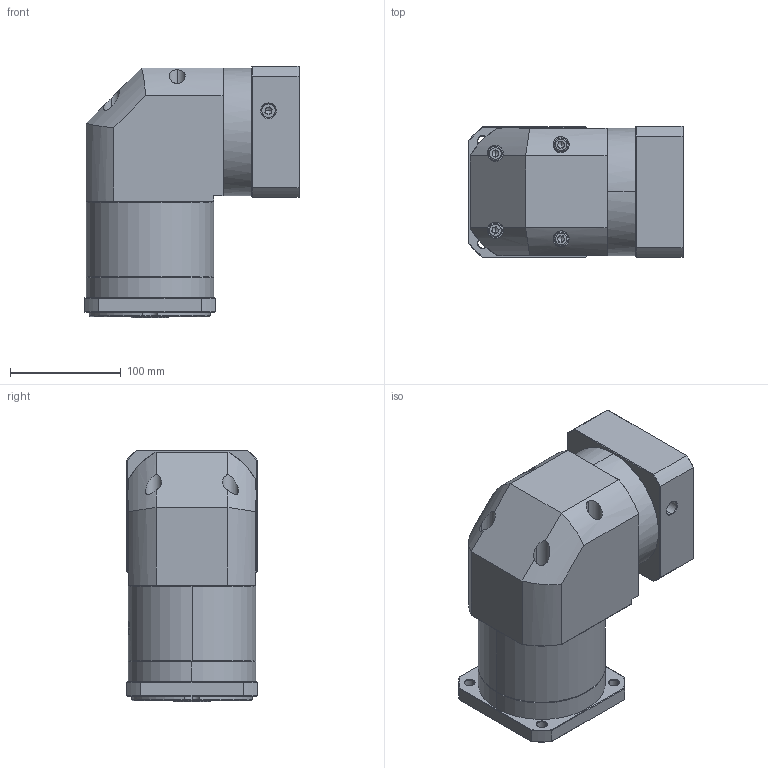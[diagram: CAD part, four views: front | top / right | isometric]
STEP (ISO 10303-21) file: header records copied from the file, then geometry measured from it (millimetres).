
FILE_DESCRIPTION (( 'STEP AP214' ), '1' );
FILE_NAME ('ZFR120A-K25-L2-P2-24-95-130-M8.step', '2023-08-27T08:16:19', ( '' ), ( '' ), 'SwSTEP 2.0', 'SolidWorks 2016', '' );
FILE_SCHEMA (( 'AUTOMOTIVE_DESIGN' ));
Length unit declared in the file: millimetre
Products named in the file (1): ZFR120A-K25-L2-P2-24-95-130-M8
Bounding box: 193.9 x 118 x 226.5 mm (x, y, z)
Volume: 3143532.4 mm3; surface area: 252044.3 mm2
Topology: 6 solids, 6 shells, 2209 faces, 5840 edges, 3736 vertices
Faces by surface type: plane 1054, bspline 415, cylinder 401, cone 331, torus 8
Entity records: 118782 total; most frequent: CARTESIAN_POINT 45062, ORIENTED_EDGE 11624, DIRECTION 8453, EDGE_CURVE 5812, VERTEX_POINT 3736, VECTOR 3107, LINE 3107, AXIS2_PLACEMENT_3D 2673
